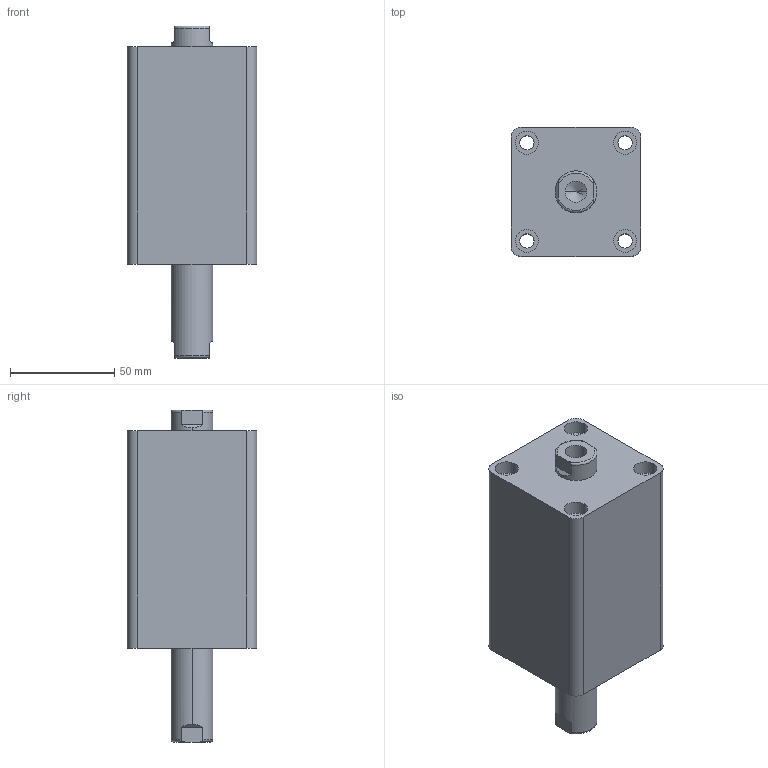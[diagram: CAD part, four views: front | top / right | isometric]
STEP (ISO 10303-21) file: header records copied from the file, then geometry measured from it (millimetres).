
FILE_DESCRIPTION (( 'STEP AP203' ), '1' );
FILE_NAME ('HTB-SW32-35N.STEP', '2019-10-07T08:52:26', ( '微软用户' ), ( '微软中国' ), 'SwSTEP 2.0', 'SolidWorks 2012', '' );
FILE_SCHEMA (( 'CONFIG_CONTROL_DESIGN' ));
Length unit declared in the file: millimetre
Products named in the file (3): HTB-SW32-35N; HTB-SW32-35N活塞杆; HTB-SW32-35掛极
Assembly tree (2 placements, depth 2):
  HTB-SW32-35N
    HTB-SW32-35掛极
    HTB-SW32-35N活塞杆
Bounding box: 62 x 62 x 159 mm (x, y, z)
Volume: 374352.8 mm3; surface area: 64543.1 mm2
Topology: 2 solids, 2 shells, 100 faces, 228 edges, 146 vertices
Faces by surface type: cylinder 48, plane 32, torus 12, cone 8
Entity records: 3237 total; most frequent: CARTESIAN_POINT 595, DIRECTION 542, ORIENTED_EDGE 448, AXIS2_PLACEMENT_3D 229, EDGE_CURVE 224, VERTEX_POINT 146, EDGE_LOOP 128, CIRCLE 124
